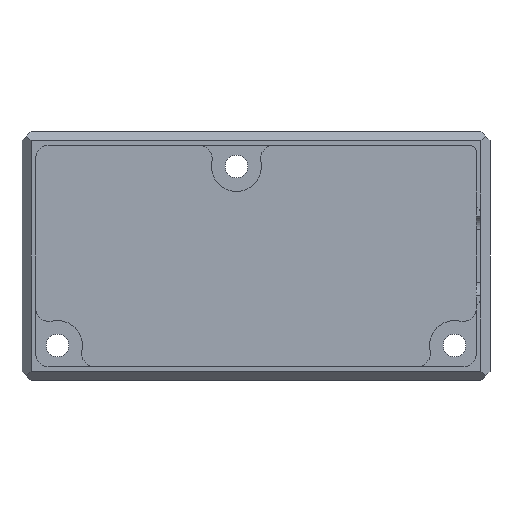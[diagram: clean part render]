
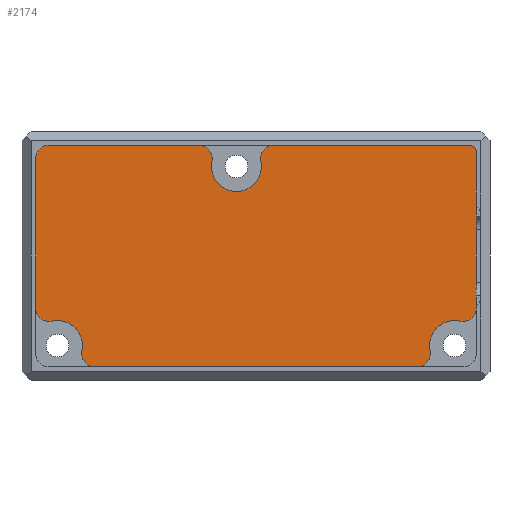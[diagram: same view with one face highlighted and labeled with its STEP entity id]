
A CAD part, front view. The second image highlights one B-rep face of the part: STEP entity #2174.
In plain terms, the highlighted planar face has unit normal (0, -1, 0).
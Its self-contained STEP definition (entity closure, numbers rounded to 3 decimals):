
#693=CARTESIAN_POINT('',(23.5,8.5,11.45));
#694=DIRECTION('',(0.,-1.,0.));
#695=DIRECTION('',(1.,0.,0.));
#696=AXIS2_PLACEMENT_3D('',#693,#694,#695);
#698=DIRECTION('',(0.,0.,-1.));
#699=VECTOR('',#698,17.146);
#700=CARTESIAN_POINT('',(24.25,8.5,11.45));
#701=LINE('',#700,#699);
#702=CARTESIAN_POINT('',(22.75,8.5,-5.696));
#703=DIRECTION('',(0.,-1.,0.));
#704=DIRECTION('',(-0.212,0.,-0.977));
#705=AXIS2_PLACEMENT_3D('',#702,#703,#704);
#707=CARTESIAN_POINT('',(21.85,8.5,-9.85));
#708=DIRECTION('',(0.,-1.,0.));
#709=DIRECTION('',(0.212,0.,0.977));
#710=AXIS2_PLACEMENT_3D('',#707,#708,#709);
#712=CARTESIAN_POINT('',(17.686,8.5,-10.7));
#713=DIRECTION('',(0.,-1.,0.));
#714=DIRECTION('',(0.,0.,-1.));
#715=AXIS2_PLACEMENT_3D('',#712,#713,#714);
#717=DIRECTION('',(-1.,0.,0.));
#718=VECTOR('',#717,35.372);
#719=CARTESIAN_POINT('',(17.686,8.5,-12.2));
#720=LINE('',#719,#718);
#721=CARTESIAN_POINT('',(-17.686,8.5,-10.7));
#722=DIRECTION('',(0.,-1.,0.));
#723=DIRECTION('',(-0.98,0.,0.2));
#724=AXIS2_PLACEMENT_3D('',#721,#722,#723);
#726=CARTESIAN_POINT('',(-21.85,8.5,-9.85));
#727=DIRECTION('',(0.,-1.,0.));
#728=DIRECTION('',(0.98,0.,-0.2));
#729=AXIS2_PLACEMENT_3D('',#726,#727,#728);
#731=CARTESIAN_POINT('',(-22.75,8.5,-5.696));
#732=DIRECTION('',(0.,-1.,0.));
#733=DIRECTION('',(-1.,0.,0.));
#734=AXIS2_PLACEMENT_3D('',#731,#732,#733);
#736=DIRECTION('',(0.,0.,1.));
#737=VECTOR('',#736,16.396);
#738=CARTESIAN_POINT('',(-24.25,8.5,-5.696));
#739=LINE('',#738,#737);
#740=CARTESIAN_POINT('',(-22.75,8.5,10.7));
#741=DIRECTION('',(0.,-1.,0.));
#742=DIRECTION('',(0.,0.,1.));
#743=AXIS2_PLACEMENT_3D('',#740,#741,#742);
#745=DIRECTION('',(1.,0.,0.));
#746=VECTOR('',#745,16.436);
#747=CARTESIAN_POINT('',(-22.75,8.5,12.2));
#748=LINE('',#747,#746);
#749=CARTESIAN_POINT('',(-6.314,8.5,10.7));
#750=DIRECTION('',(0.,-1.,0.));
#751=DIRECTION('',(0.98,0.,-0.2));
#752=AXIS2_PLACEMENT_3D('',#749,#750,#751);
#754=CARTESIAN_POINT('',(-2.15,8.5,9.85));
#755=DIRECTION('',(0.,-1.,0.));
#756=DIRECTION('',(-0.98,0.,0.2));
#757=AXIS2_PLACEMENT_3D('',#754,#755,#756);
#759=CARTESIAN_POINT('',(2.014,8.5,10.7));
#760=DIRECTION('',(0.,-1.,0.));
#761=DIRECTION('',(0.,0.,1.));
#762=AXIS2_PLACEMENT_3D('',#759,#760,#761);
#764=DIRECTION('',(1.,0.,0.));
#765=VECTOR('',#764,21.486);
#766=CARTESIAN_POINT('',(2.014,8.5,12.2));
#767=LINE('',#766,#765);
#971=CARTESIAN_POINT('',(-19.156,8.5,-10.4));
#972=CARTESIAN_POINT('',(-17.686,8.5,-12.2));
#973=VERTEX_POINT('',#971);
#974=VERTEX_POINT('',#972);
#975=CARTESIAN_POINT('',(-22.432,8.5,-7.162));
#976=VERTEX_POINT('',#975);
#977=CARTESIAN_POINT('',(-24.25,8.5,-5.696));
#978=VERTEX_POINT('',#977);
#979=CARTESIAN_POINT('',(22.432,8.5,-7.162));
#980=CARTESIAN_POINT('',(19.156,8.5,-10.4));
#981=VERTEX_POINT('',#979);
#982=VERTEX_POINT('',#980);
#983=CARTESIAN_POINT('',(17.686,8.5,-12.2));
#984=VERTEX_POINT('',#983);
#985=CARTESIAN_POINT('',(24.25,8.5,-5.696));
#986=VERTEX_POINT('',#985);
#987=CARTESIAN_POINT('',(-4.844,8.5,10.4));
#988=CARTESIAN_POINT('',(0.544,8.5,10.4));
#989=VERTEX_POINT('',#987);
#990=VERTEX_POINT('',#988);
#991=CARTESIAN_POINT('',(2.014,8.5,12.2));
#992=VERTEX_POINT('',#991);
#993=CARTESIAN_POINT('',(-6.314,8.5,12.2));
#994=VERTEX_POINT('',#993);
#1055=CARTESIAN_POINT('',(24.25,8.5,11.45));
#1056=CARTESIAN_POINT('',(23.5,8.5,12.2));
#1057=VERTEX_POINT('',#1055);
#1058=VERTEX_POINT('',#1056);
#1059=CARTESIAN_POINT('',(-22.75,8.5,12.2));
#1060=CARTESIAN_POINT('',(-24.25,8.5,10.7));
#1061=VERTEX_POINT('',#1059);
#1062=VERTEX_POINT('',#1060);
#2139=CARTESIAN_POINT('',(0.,8.5,0.));
#2140=DIRECTION('',(0.,1.,0.));
#2141=DIRECTION('',(1.,0.,0.));
#2142=AXIS2_PLACEMENT_3D('',#2139,#2140,#2141);
#2143=PLANE('',#2142);
#2144=ORIENTED_EDGE('',*,*,#2124,.F.);
#2145=ORIENTED_EDGE('',*,*,#1188,.T.);
#2147=ORIENTED_EDGE('',*,*,#2146,.F.);
#2149=ORIENTED_EDGE('',*,*,#2148,.T.);
#2151=ORIENTED_EDGE('',*,*,#2150,.F.);
#2153=ORIENTED_EDGE('',*,*,#2152,.T.);
#2155=ORIENTED_EDGE('',*,*,#2154,.F.);
#2157=ORIENTED_EDGE('',*,*,#2156,.T.);
#2159=ORIENTED_EDGE('',*,*,#2158,.F.);
#2161=ORIENTED_EDGE('',*,*,#2160,.T.);
#2163=ORIENTED_EDGE('',*,*,#2162,.F.);
#2164=ORIENTED_EDGE('',*,*,#2104,.T.);
#2166=ORIENTED_EDGE('',*,*,#2165,.F.);
#2168=ORIENTED_EDGE('',*,*,#2167,.T.);
#2170=ORIENTED_EDGE('',*,*,#2169,.F.);
#2171=ORIENTED_EDGE('',*,*,#2097,.T.);
#2172=EDGE_LOOP('',(#2144,#2145,#2147,#2149,#2151,#2153,#2155,#2157,#2159,#2161,
#2163,#2164,#2166,#2168,#2170,#2171));
#2173=FACE_OUTER_BOUND('',#2172,.F.);
#697=CIRCLE('',#696,0.75);
#706=CIRCLE('',#705,1.5);
#711=CIRCLE('',#710,2.75);
#716=CIRCLE('',#715,1.5);
#725=CIRCLE('',#724,1.5);
#730=CIRCLE('',#729,2.75);
#735=CIRCLE('',#734,1.5);
#744=CIRCLE('',#743,1.5);
#753=CIRCLE('',#752,1.5);
#758=CIRCLE('',#757,2.75);
#763=CIRCLE('',#762,1.5);
#1188=EDGE_CURVE('',#1057,#986,#701,.T.);
#2097=EDGE_CURVE('',#992,#1058,#767,.T.);
#2104=EDGE_CURVE('',#1061,#994,#748,.T.);
#2124=EDGE_CURVE('',#1057,#1058,#697,.T.);
#2146=EDGE_CURVE('',#981,#986,#706,.T.);
#2148=EDGE_CURVE('',#981,#982,#711,.T.);
#2150=EDGE_CURVE('',#984,#982,#716,.T.);
#2152=EDGE_CURVE('',#984,#974,#720,.T.);
#2154=EDGE_CURVE('',#973,#974,#725,.T.);
#2156=EDGE_CURVE('',#973,#976,#730,.T.);
#2158=EDGE_CURVE('',#978,#976,#735,.T.);
#2160=EDGE_CURVE('',#978,#1062,#739,.T.);
#2162=EDGE_CURVE('',#1061,#1062,#744,.T.);
#2165=EDGE_CURVE('',#989,#994,#753,.T.);
#2167=EDGE_CURVE('',#989,#990,#758,.T.);
#2169=EDGE_CURVE('',#992,#990,#763,.T.);
#2174=ADVANCED_FACE('',(#2173),#2143,.F.);
